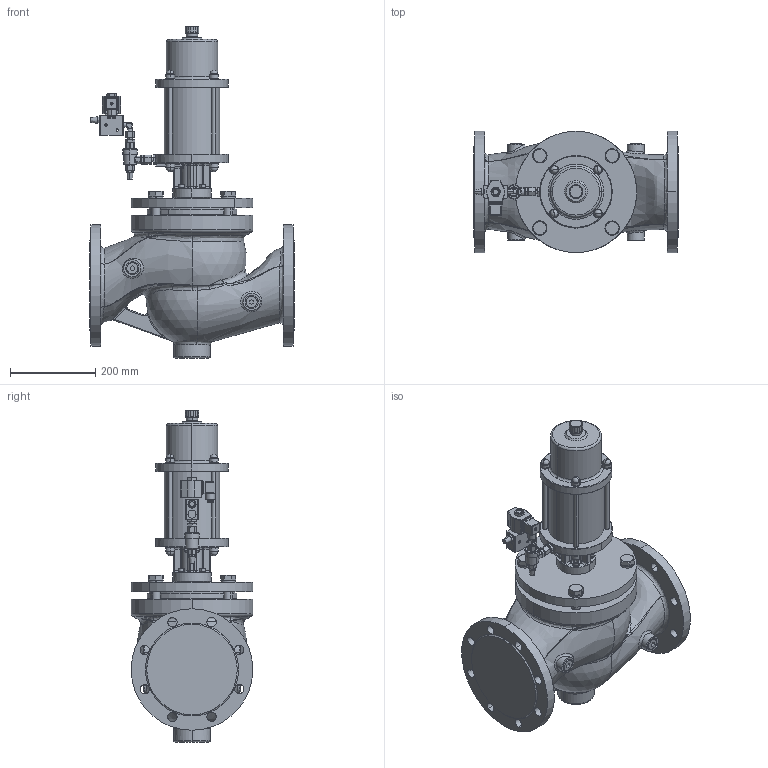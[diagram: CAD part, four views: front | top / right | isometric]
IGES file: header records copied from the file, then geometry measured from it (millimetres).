
Global section: file name: No Iges File Name specified; native system: AutoDesk Inventor R12.0; preprocessor: AutoDesk Inventor Iges Exporter R12.0; date: 20100517.152541; units: millimetre
Bounding box: 480 x 285 x 778.55 mm (x, y, z)
Volume: 28168839.6 mm3; surface area: 1089201.2 mm2
Topology: 2 solids, 2 shells, 1363 faces, 3584 edges, 2191 vertices
Faces by surface type: plane 510, cylinder 282, bspline 274, cone 127, revolution 95, torus 40, sphere 35
